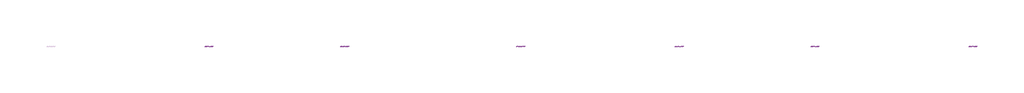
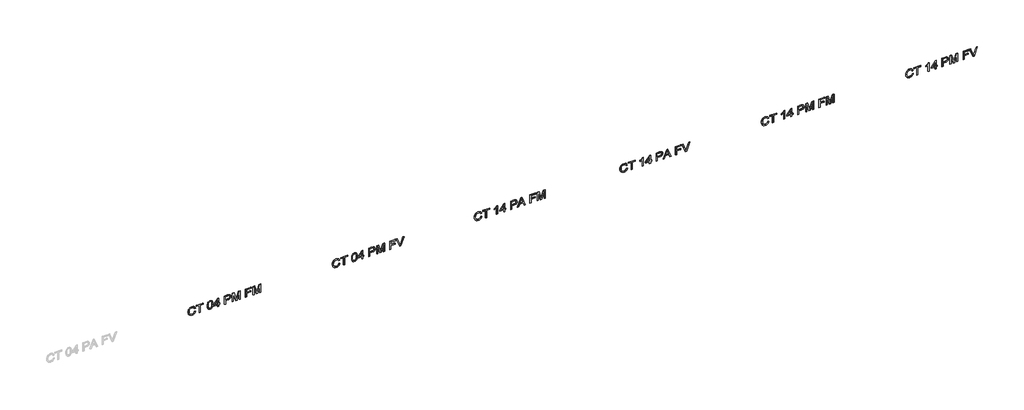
# One storey, part 2 of 2: 6 proxies.
"""IFC4 building model written with IfcOpenShell, lengths in millimetres."""

from ifc_helpers import new_model, si_unit, frame, origin, place, context, project, spatial, polyline, outline, extrude, element, save

model = new_model("IFC4")

# Units and contexts
model_context = context("Model", 3, world=origin())
ifc_project = project(units=[si_unit("LENGTHUNIT", "METRE", prefix="MILLI")], contexts=[model_context])

# Site, building, storey
site = spatial("IfcSite", under=ifc_project)
building = spatial("IfcBuilding", under=site)
storey = spatial("IfcBuildingStorey", under=building, Name="03 - Marelli - Planta Baixa - Cabine 04 Pessoas", Elevation=-24000.0)

# Proxies
placement = place(None, origin())
element("IfcBuildingElementProxy", 1, Name="300mm Arial", ObjectType="300mm Arial", at=placement, inside=storey, context=model_context, shape_type="SweptSolid", body=[
    extrude(outline(polyline([(-18192.872763, 7824.9358079), (-18225.136014, 7812.7497168), (-18248.3493679, 7792.9668625), (-18262.3656719, 7766.7644674), (-18267.0377732, 7735.3197539), (-18263.6072736, 7708.3448066), (-18253.3157748, 7683.3380279), (-18236.0897004, 7662.4791188), (-18211.855474, 7647.94778), (-18181.7627268, 7639.4221148), (-18146.96109, 7636.5802264), (-18118.5422059, 7638.9806564), (-18090.9694503, 7646.1819464), (-18066.5788741, 7659.3061366), (-18047.7065277, 7679.475267), (-18035.6216042, 7706.0547411), (-18031.5932963, 7738.4099626), (-18035.226131, 7766.4793589), (-18046.1246351, 7789.3248308), (-18064.9693903, 7807.1671075), (-18092.4409783, 7820.2269184), (-18083.4646576, 7857.8980347), (-18045.6463885, 7841.2605714), (-18030.3241034, 7829.4584572), (-18017.3930513, 7815.3340878), (-18007.1245451, 7799.1541778), (-17999.7898978, 7781.1854416), (-17993.92218, 7739.8814906), (-17998.4563256, 7702.0264333), (-18012.0587624, 7667.482314), (-18034.3983965, 7638.355257), (-18065.1441343, 7616.7513868), (-18103.0911621, 7603.3696792), (-18147.0346664, 7598.9091101), (-18188.6973024, 7602.8546445), (-18227.6008233, 7614.6912476), (-18260.6918088, 7634.0786288), (-18284.9168382, 7660.676497), (-18299.7608767, 7695.3769662), (-18304.7088895, 7739.0721502), (-18303.0741139, 7761.4945578), (-18298.1697871, 7782.1143437), (-18289.995909, 7800.9315077), (-18278.5524797, 7817.94605), (-18263.995849, 7832.8222782), (-18246.4823668, 7845.2244999), (-18226.012033, 7855.1527153), (-18202.5848477, 7862.6069242), (-18192.872763, 7824.9358079)])), frame((0.0, 8778.3159498, 0.0), z_axis=(0.0, 1.0, 0.0), x_axis=(0.0, 0.0, 1.0)), (0.0, 0.0, 1.0), 10.0),
    extrude(outline(polyline([(-18300.0, 7989.7469417), (-18300.0, 8027.418058), (-18036.3021859, 8027.418058), (-18036.3021859, 8126.3047383), (-17998.6310696, 8126.3047383), (-17998.6310696, 7890.8602614), (-18036.3021859, 7890.8602614), (-18036.3021859, 7989.7469417), (-18300.0, 7989.7469417)])), frame((0.0, 8778.3159498, 0.0), z_axis=(0.0, 1.0, 0.0), x_axis=(0.0, 0.0, 1.0)), (0.0, 0.0, 1.0), 10.0),
    extrude(outline(polyline([(-18151.7435559, 8272.280314), (-18191.1851044, 8274.1565122), (-18225.0440435, 8279.7851067), (-18253.3203733, 8289.1660976), (-18276.0140939, 8302.2994848), (-18288.568067, 8315.9846951), (-18297.5351906, 8332.02435), (-18302.9154648, 8350.4184498), (-18304.7088895, 8371.1669943), (-18300.5794141, 8401.6184265), (-18288.190988, 8426.3125054), (-18267.4056552, 8445.414778), (-18238.0854602, 8459.0907912), (-18199.7061711, 8467.3129538), (-18151.7435559, 8470.0536746), (-18111.7823742, 8468.3430234), (-18080.9262719, 8463.2110695), (-18056.6276661, 8455.375183), (-18036.3389741, 8445.5527338), (-18020.1981515, 8432.5481052), (-18008.3431542, 8415.165681), (-18001.0590907, 8394.3803482), (-17998.6310696, 8371.1669943), (-18002.7329538, 8340.8811091), (-18015.0386065, 8316.2422124), (-18035.7411658, 8297.1123487), (-18065.0337697, 8283.3535621), (-18103.5050293, 8275.048626), (-18151.7435559, 8272.280314)]), holes=[polyline([(-18151.6699795, 8309.9514303), (-18093.1767423, 8314.5131671), (-18072.097104, 8320.215338), (-18056.4621192, 8328.1983773), (-18041.3421692, 8347.1443), (-18036.3021859, 8370.7255359), (-18042.0227509, 8395.631147), (-18059.184446, 8415.3128337), (-18073.5456393, 8422.7808383), (-18093.7469594, 8428.1151272), (-18151.6699795, 8432.3825583), (-18210.8346014, 8427.9679744), (-18231.0980016, 8422.4497445), (-18245.1487945, 8414.7242226), (-18261.5655286, 8395.0057476), (-18267.0377732, 8371.1669943), (-18261.5839227, 8347.328241), (-18245.2223709, 8327.6097661), (-18231.1945706, 8319.8842442), (-18210.9265719, 8314.3660143), (-18151.6699795, 8309.9514303)])]), frame((0.0, 8778.3159498, 0.0), z_axis=(0.0, 1.0, 0.0), x_axis=(0.0, 0.0, 1.0)), (0.0, 0.0, 1.0), 10.0),
    extrude(outline(polyline([(-18300.0, 8625.4470294), (-18300.0, 8663.1181457), (-18229.3666569, 8663.1181457), (-18229.3666569, 8700.789262), (-18191.6955406, 8700.789262), (-18191.6955406, 8663.1181457), (-18003.3399591, 8663.1181457), (-18003.3399591, 8634.8648085), (-18191.6955406, 8488.8892328), (-18229.3666569, 8488.8892328), (-18229.3666569, 8625.4470294), (-18300.0, 8625.4470294)]), holes=[polyline([(-18191.6955406, 8625.4470294), (-18191.6955406, 8535.2423642), (-18075.2976773, 8625.4470294), (-18191.6955406, 8625.4470294)])]), frame((0.0, 8778.3159498, 0.0), z_axis=(0.0, 1.0, 0.0), x_axis=(0.0, 0.0, 1.0)), (0.0, 0.0, 1.0), 10.0),
    extrude(outline(polyline([(-18300.0, 8865.6003958), (-18300.0, 8903.2715122), (-18177.568872, 8903.2715122), (-18177.568872, 8979.8645435), (-18175.904206, 9009.0628777), (-18170.9102079, 9033.3821768), (-18162.5868778, 9052.822441), (-18150.9342156, 9067.3836702), (-18136.8765248, 9077.990168), (-18121.338109, 9085.5662378), (-18104.3189682, 9090.1118797), (-18085.8191024, 9091.6270937), (-18064.362385, 9089.3830135), (-18044.7266835, 9082.650773), (-18028.0800233, 9072.2305155), (-18015.5904295, 9058.9223843), (-18006.8624292, 9042.3952857), (-18001.5005491, 9022.3181258), (-17998.6310696, 8977.2893696), (-17998.6310696, 8865.6003958), (-18300.0, 8865.6003958)]), holes=[polyline([(-18139.8977557, 8903.2715122), (-18036.3021859, 8903.2715122), (-18036.3021859, 8981.1889187), (-18038.8773598, 9018.860035), (-18045.2049301, 9033.0878712), (-18055.9470844, 9044.2806809), (-18070.2209058, 9051.5371533), (-18087.1434776, 9053.9559774), (-18109.4187324, 9049.8540931), (-18126.0653927, 9037.5484404), (-18136.4396649, 9015.4755207), (-18139.8977557, 8982.0718355), (-18139.8977557, 8903.2715122)])]), frame((0.0, 8778.3159498, 0.0), z_axis=(0.0, 1.0, 0.0), x_axis=(0.0, 0.0, 1.0)), (0.0, 0.0, 1.0), 10.0),
    extrude(outline(polyline([(-18300.0, 9143.4248786), (-18300.0, 9181.0959949), (-18036.3021859, 9181.0959949), (-18300.0, 9256.8061095), (-18300.0, 9307.8681304), (-18036.3021859, 9383.5782451), (-18300.0, 9383.5782451), (-18300.0, 9421.2493614), (-17998.6310696, 9421.2493614), (-17998.6310696, 9356.4285538), (-18207.3673136, 9295.801601), (-18255.4127022, 9282.33712), (-18211.0461336, 9269.9027085), (-17998.6310696, 9208.2456862), (-17998.6310696, 9143.4248786), (-18300.0, 9143.4248786)])), frame((0.0, 8778.3159498, 0.0), z_axis=(0.0, 1.0, 0.0), x_axis=(0.0, 0.0, 1.0)), (0.0, 0.0, 1.0), 10.0),
    extrude(outline(polyline([(-18300.0, 9604.8960534), (-18300.0, 9642.5671697), (-18163.4422034, 9642.5671697), (-18163.4422034, 9783.8338558), (-18125.7710871, 9783.8338558), (-18125.7710871, 9642.5671697), (-18036.3021859, 9642.5671697), (-18036.3021859, 9807.3783035), (-17998.6310696, 9807.3783035), (-17998.6310696, 9604.8960534), (-18300.0, 9604.8960534)])), frame((0.0, 8778.3159498, 0.0), z_axis=(0.0, 1.0, 0.0), x_axis=(0.0, 0.0, 1.0)), (0.0, 0.0, 1.0), 10.0),
    extrude(outline(polyline([(-18300.0, 9859.1760884), (-18300.0, 9896.8472047), (-18036.3021859, 9896.8472047), (-18300.0, 9972.5573193), (-18300.0, 10023.6193403), (-18036.3021859, 10099.3294549), (-18300.0, 10099.3294549), (-18300.0, 10137.0005712), (-17998.6310696, 10137.0005712), (-17998.6310696, 10072.1797636), (-18207.3673136, 10011.5528108), (-18255.4127022, 9998.0883298), (-18211.0461336, 9985.6539184), (-17998.6310696, 9923.996896), (-17998.6310696, 9859.1760884), (-18300.0, 9859.1760884)])), frame((0.0, 8778.3159498, 0.0), z_axis=(0.0, 1.0, 0.0), x_axis=(0.0, 0.0, 1.0)), (0.0, 0.0, 1.0), 10.0),
])
element("IfcBuildingElementProxy", 2, Name="300mm Arial", ObjectType="300mm Arial", at=placement, inside=storey, context=model_context, shape_type="SweptSolid", body=[
    extrude(outline(polyline([(-18192.872763, 12857.8980347), (-18225.136014, 12845.7119436), (-18248.3493679, 12825.9290893), (-18262.3656719, 12799.7266942), (-18267.0377732, 12768.2819806), (-18263.6072736, 12741.3070333), (-18253.3157748, 12716.3002547), (-18236.0897004, 12695.4413456), (-18211.855474, 12680.9100068), (-18181.7627268, 12672.3843415), (-18146.96109, 12669.5424531), (-18118.5422059, 12671.9428831), (-18090.9694503, 12679.1441732), (-18066.5788741, 12692.2683634), (-18047.7065277, 12712.4374938), (-18035.6216042, 12739.0169679), (-18031.5932963, 12771.3721894), (-18035.226131, 12799.4415856), (-18046.1246351, 12822.2870575), (-18064.9693903, 12840.1293343), (-18092.4409783, 12853.1891451), (-18083.4646576, 12890.8602614), (-18045.6463885, 12874.2227982), (-18030.3241034, 12862.4206839), (-18017.3930513, 12848.2963146), (-18007.1245451, 12832.1164046), (-17999.7898978, 12814.1476684), (-17993.92218, 12772.8437174), (-17998.4563256, 12734.9886601), (-18012.0587624, 12700.4445407), (-18034.3983965, 12671.3174838), (-18065.1441343, 12649.7136136), (-18103.0911621, 12636.331906), (-18147.0346664, 12631.8713368), (-18188.6973024, 12635.8168712), (-18227.6008233, 12647.6534744), (-18260.6918088, 12667.0408556), (-18284.9168382, 12693.6387238), (-18299.7608767, 12728.339193), (-18304.7088895, 12772.034377), (-18303.0741139, 12794.4567846), (-18298.1697871, 12815.0765704), (-18289.995909, 12833.8937345), (-18278.5524797, 12850.9082767), (-18263.995849, 12865.7845049), (-18246.4823668, 12878.1867267), (-18226.012033, 12888.114942), (-18202.5848477, 12895.569151), (-18192.872763, 12857.8980347)])), frame((0.0, 8778.3159498, 0.0), z_axis=(0.0, 1.0, 0.0), x_axis=(0.0, 0.0, 1.0)), (0.0, 0.0, 1.0), 10.0),
    extrude(outline(polyline([(-18300.0, 13022.7091685), (-18300.0, 13060.3802848), (-18036.3021859, 13060.3802848), (-18036.3021859, 13159.2669651), (-17998.6310696, 13159.2669651), (-17998.6310696, 12923.8224882), (-18036.3021859, 12923.8224882), (-18036.3021859, 13022.7091685), (-18300.0, 13022.7091685)])), frame((0.0, 8778.3159498, 0.0), z_axis=(0.0, 1.0, 0.0), x_axis=(0.0, 0.0, 1.0)), (0.0, 0.0, 1.0), 10.0),
    extrude(outline(polyline([(-18151.7435559, 13305.2425408), (-18191.1851044, 13307.118739), (-18225.0440435, 13312.7473335), (-18253.3203733, 13322.1283244), (-18276.0140939, 13335.2617116), (-18288.568067, 13348.9469218), (-18297.5351906, 13364.9865768), (-18302.9154648, 13383.3806766), (-18304.7088895, 13404.1292211), (-18300.5794141, 13434.5806532), (-18288.190988, 13459.2747322), (-18267.4056552, 13478.3770048), (-18238.0854602, 13492.0530179), (-18199.7061711, 13500.2751805), (-18151.7435559, 13503.0159014), (-18111.7823742, 13501.3052501), (-18080.9262719, 13496.1732963), (-18056.6276661, 13488.3374098), (-18036.3389741, 13478.5149605), (-18020.1981515, 13465.510332), (-18008.3431542, 13448.1279077), (-18001.0590907, 13427.342575), (-17998.6310696, 13404.1292211), (-18002.7329538, 13373.8433358), (-18015.0386065, 13349.2044392), (-18035.7411658, 13330.0745755), (-18065.0337697, 13316.3157888), (-18103.5050293, 13308.0108528), (-18151.7435559, 13305.2425408)]), holes=[polyline([(-18151.6699795, 13342.9136571), (-18093.1767423, 13347.4753938), (-18072.097104, 13353.1775648), (-18056.4621192, 13361.1606041), (-18041.3421692, 13380.1065268), (-18036.3021859, 13403.6877627), (-18042.0227509, 13428.5933738), (-18059.184446, 13448.2750605), (-18073.5456393, 13455.743065), (-18093.7469594, 13461.0773539), (-18151.6699795, 13465.3447851), (-18210.8346014, 13460.9302012), (-18231.0980016, 13455.4119712), (-18245.1487945, 13447.6864493), (-18261.5655286, 13427.9679744), (-18267.0377732, 13404.1292211), (-18261.5839227, 13380.2904678), (-18245.2223709, 13360.5719929), (-18231.1945706, 13352.846471), (-18210.9265719, 13347.328241), (-18151.6699795, 13342.9136571)])]), frame((0.0, 8778.3159498, 0.0), z_axis=(0.0, 1.0, 0.0), x_axis=(0.0, 0.0, 1.0)), (0.0, 0.0, 1.0), 10.0),
    extrude(outline(polyline([(-18300.0, 13658.4092562), (-18300.0, 13696.0803725), (-18229.3666569, 13696.0803725), (-18229.3666569, 13733.7514888), (-18191.6955406, 13733.7514888), (-18191.6955406, 13696.0803725), (-18003.3399591, 13696.0803725), (-18003.3399591, 13667.8270352), (-18191.6955406, 13521.8514596), (-18229.3666569, 13521.8514596), (-18229.3666569, 13658.4092562), (-18300.0, 13658.4092562)]), holes=[polyline([(-18191.6955406, 13658.4092562), (-18191.6955406, 13568.2045909), (-18075.2976773, 13658.4092562), (-18191.6955406, 13658.4092562)])]), frame((0.0, 8778.3159498, 0.0), z_axis=(0.0, 1.0, 0.0), x_axis=(0.0, 0.0, 1.0)), (0.0, 0.0, 1.0), 10.0),
    extrude(outline(polyline([(-18300.0, 13898.5626226), (-18300.0, 13936.2337389), (-18177.568872, 13936.2337389), (-18177.568872, 14012.8267703), (-18175.904206, 14042.0251044), (-18170.9102079, 14066.3444036), (-18162.5868778, 14085.7846677), (-18150.9342156, 14100.345897), (-18136.8765248, 14110.9523947), (-18121.338109, 14118.5284646), (-18104.3189682, 14123.0741065), (-18085.8191024, 14124.5893204), (-18064.362385, 14122.3452403), (-18044.7266835, 14115.6129998), (-18028.0800233, 14105.1927423), (-18015.5904295, 14091.8846111), (-18006.8624292, 14075.3575124), (-18001.5005491, 14055.2803526), (-17998.6310696, 14010.2515963), (-17998.6310696, 13898.5626226), (-18300.0, 13898.5626226)]), holes=[polyline([(-18139.8977557, 13936.2337389), (-18036.3021859, 13936.2337389), (-18036.3021859, 14014.1511455), (-18038.8773598, 14051.8222618), (-18045.2049301, 14066.050098), (-18055.9470844, 14077.2429077), (-18070.2209058, 14084.49938), (-18087.1434776, 14086.9182041), (-18109.4187324, 14082.8163199), (-18126.0653927, 14070.5106672), (-18136.4396649, 14048.4377474), (-18139.8977557, 14015.0340623), (-18139.8977557, 13936.2337389)])]), frame((0.0, 8778.3159498, 0.0), z_axis=(0.0, 1.0, 0.0), x_axis=(0.0, 0.0, 1.0)), (0.0, 0.0, 1.0), 10.0),
    extrude(outline(polyline([(-18300.0, 14176.3871054), (-18300.0, 14214.0582217), (-18036.3021859, 14214.0582217), (-18300.0, 14289.7683363), (-18300.0, 14340.8303572), (-18036.3021859, 14416.5404718), (-18300.0, 14416.5404718), (-18300.0, 14454.2115881), (-17998.6310696, 14454.2115881), (-17998.6310696, 14389.3907806), (-18207.3673136, 14328.7638278), (-18255.4127022, 14315.2993467), (-18211.0461336, 14302.8649353), (-17998.6310696, 14241.2079129), (-17998.6310696, 14176.3871054), (-18300.0, 14176.3871054)])), frame((0.0, 8778.3159498, 0.0), z_axis=(0.0, 1.0, 0.0), x_axis=(0.0, 0.0, 1.0)), (0.0, 0.0, 1.0), 10.0),
    extrude(outline(polyline([(-18300.0, 14637.8582801), (-18300.0, 14675.5293964), (-18163.4422034, 14675.5293964), (-18163.4422034, 14816.7960826), (-18125.7710871, 14816.7960826), (-18125.7710871, 14675.5293964), (-18036.3021859, 14675.5293964), (-18036.3021859, 14840.3405303), (-17998.6310696, 14840.3405303), (-17998.6310696, 14637.8582801), (-18300.0, 14637.8582801)])), frame((0.0, 8778.3159498, 0.0), z_axis=(0.0, 1.0, 0.0), x_axis=(0.0, 0.0, 1.0)), (0.0, 0.0, 1.0), 10.0),
    extrude(outline(polyline([(-18300.0, 14981.165758), (-18300.0, 15020.0876731), (-17998.6310696, 15134.940432), (-17998.6310696, 15094.6205653), (-18215.7550231, 15014.1279848), (-18264.6833285, 14998.0883298), (-18215.7550231, 14981.8279456), (-17998.6310696, 14901.5560943), (-17998.6310696, 14861.2362276), (-18300.0, 14981.165758)])), frame((0.0, 8778.3159498, 0.0), z_axis=(0.0, 1.0, 0.0), x_axis=(0.0, 0.0, 1.0)), (0.0, 0.0, 1.0), 10.0),
])
element("IfcBuildingElementProxy", 3, Name="300mm Arial", ObjectType="300mm Arial", at=placement, inside=storey, context=model_context, shape_type="SweptSolid", body=[
    extrude(outline(polyline([(-18192.872763, 17810.8091393), (-18225.136014, 17798.6230482), (-18248.3493679, 17778.8401939), (-18262.3656719, 17752.6377988), (-18267.0377732, 17721.1930852), (-18263.6072736, 17694.218138), (-18253.3157748, 17669.2113593), (-18236.0897004, 17648.3524502), (-18211.855474, 17633.8211114), (-18181.7627268, 17625.2954462), (-18146.96109, 17622.4535577), (-18118.5422059, 17624.8539878), (-18090.9694503, 17632.0552778), (-18066.5788741, 17645.179468), (-18047.7065277, 17665.3485984), (-18035.6216042, 17691.9280725), (-18031.5932963, 17724.283294), (-18035.226131, 17752.3526902), (-18046.1246351, 17775.1981621), (-18064.9693903, 17793.0404389), (-18092.4409783, 17806.1002497), (-18083.4646576, 17843.771366), (-18045.6463885, 17827.1339028), (-18030.3241034, 17815.3317886), (-18017.3930513, 17801.2074192), (-18007.1245451, 17785.0275092), (-17999.7898978, 17767.058773), (-17993.92218, 17725.754822), (-17998.4563256, 17687.8997647), (-18012.0587624, 17653.3556453), (-18034.3983965, 17624.2285884), (-18065.1441343, 17602.6247182), (-18103.0911621, 17589.2430106), (-18147.0346664, 17584.7824414), (-18188.6973024, 17588.7279758), (-18227.6008233, 17600.564579), (-18260.6918088, 17619.9519602), (-18284.9168382, 17646.5498284), (-18299.7608767, 17681.2502976), (-18304.7088895, 17724.9454816), (-18303.0741139, 17747.3678892), (-18298.1697871, 17767.987675), (-18289.995909, 17786.8048391), (-18278.5524797, 17803.8193814), (-18263.995849, 17818.6956095), (-18246.4823668, 17831.0978313), (-18226.012033, 17841.0260467), (-18202.5848477, 17848.4802556), (-18192.872763, 17810.8091393)])), frame((0.0, 8778.3159498, 0.0), z_axis=(0.0, 1.0, 0.0), x_axis=(0.0, 0.0, 1.0)), (0.0, 0.0, 1.0), 10.0),
    extrude(outline(polyline([(-18300.0, 17975.6202731), (-18300.0, 18013.2913894), (-18036.3021859, 18013.2913894), (-18036.3021859, 18112.1780697), (-17998.6310696, 18112.1780697), (-17998.6310696, 17876.7335928), (-18036.3021859, 17876.7335928), (-18036.3021859, 17975.6202731), (-18300.0, 17975.6202731)])), frame((0.0, 8778.3159498, 0.0), z_axis=(0.0, 1.0, 0.0), x_axis=(0.0, 0.0, 1.0)), (0.0, 0.0, 1.0), 10.0),
    extrude(outline(polyline([(-18300.0, 18399.4203316), (-17998.6310696, 18399.4203316), (-17998.6310696, 18375.1401199), (-18018.3679386, 18361.8319887), (-18038.730207, 18341.6260701), (-18057.8784649, 18315.9938921), (-18073.9733022, 18286.4069826), (-18109.5842793, 18286.4069826), (-18090.5647801, 18326.0646617), (-18065.1441343, 18361.7492153), (-18300.0, 18361.7492153), (-18300.0, 18399.4203316)])), frame((0.0, 8778.3159498, 0.0), z_axis=(0.0, 1.0, 0.0), x_axis=(0.0, 0.0, 1.0)), (0.0, 0.0, 1.0), 10.0),
    extrude(outline(polyline([(-18300.0, 18611.3203608), (-18300.0, 18648.9914771), (-18229.3666569, 18648.9914771), (-18229.3666569, 18686.6625934), (-18191.6955406, 18686.6625934), (-18191.6955406, 18648.9914771), (-18003.3399591, 18648.9914771), (-18003.3399591, 18620.7381399), (-18191.6955406, 18474.7625642), (-18229.3666569, 18474.7625642), (-18229.3666569, 18611.3203608), (-18300.0, 18611.3203608)]), holes=[polyline([(-18191.6955406, 18611.3203608), (-18191.6955406, 18521.1156956), (-18075.2976773, 18611.3203608), (-18191.6955406, 18611.3203608)])]), frame((0.0, 8778.3159498, 0.0), z_axis=(0.0, 1.0, 0.0), x_axis=(0.0, 0.0, 1.0)), (0.0, 0.0, 1.0), 10.0),
    extrude(outline(polyline([(-18300.0, 18851.4737272), (-18300.0, 18889.1448435), (-18177.568872, 18889.1448435), (-18177.568872, 18965.7378749), (-18175.904206, 18994.936209), (-18170.9102079, 19019.2555082), (-18162.5868778, 19038.6957724), (-18150.9342156, 19053.2570016), (-18136.8765248, 19063.8634994), (-18121.338109, 19071.4395692), (-18104.3189682, 19075.9852111), (-18085.8191024, 19077.5004251), (-18064.362385, 19075.2563449), (-18044.7266835, 19068.5241044), (-18028.0800233, 19058.1038469), (-18015.5904295, 19044.7957157), (-18006.8624292, 19028.2686171), (-18001.5005491, 19008.1914572), (-17998.6310696, 18963.162701), (-17998.6310696, 18851.4737272), (-18300.0, 18851.4737272)]), holes=[polyline([(-18139.8977557, 18889.1448435), (-18036.3021859, 18889.1448435), (-18036.3021859, 18967.0622501), (-18038.8773598, 19004.7333664), (-18045.2049301, 19018.9612026), (-18055.9470844, 19030.1540123), (-18070.2209058, 19037.4104846), (-18087.1434776, 19039.8293088), (-18109.4187324, 19035.7274245), (-18126.0653927, 19023.4217718), (-18136.4396649, 19001.3488521), (-18139.8977557, 18967.9451669), (-18139.8977557, 18889.1448435)])]), frame((0.0, 8778.3159498, 0.0), z_axis=(0.0, 1.0, 0.0), x_axis=(0.0, 0.0, 1.0)), (0.0, 0.0, 1.0), 10.0),
    extrude(outline(polyline([(-18300.0, 19094.2022676), (-18300.0, 19134.0070995), (-18205.8222092, 19168.4408543), (-18205.8222092, 19292.5642394), (-18300.0, 19327.0715706), (-18300.0, 19366.8764025), (-17998.6310696, 19246.5789901), (-17998.6310696, 19214.4996801), (-18300.0, 19094.2022676)]), holes=[polyline([(-18168.1510929, 19182.2732173), (-18087.584936, 19211.7773533), (-18036.3021859, 19230.5393351), (-18094.0596591, 19251.6557616), (-18168.1510929, 19278.8054528), (-18168.1510929, 19182.2732173)])]), frame((0.0, 8778.3159498, 0.0), z_axis=(0.0, 1.0, 0.0), x_axis=(0.0, 0.0, 1.0)), (0.0, 0.0, 1.0), 10.0),
    extrude(outline(polyline([(-18300.0, 19524.8449312), (-18300.0, 19562.5160475), (-18163.4422034, 19562.5160475), (-18163.4422034, 19703.7827337), (-18125.7710871, 19703.7827337), (-18125.7710871, 19562.5160475), (-18036.3021859, 19562.5160475), (-18036.3021859, 19727.3271813), (-17998.6310696, 19727.3271813), (-17998.6310696, 19524.8449312), (-18300.0, 19524.8449312)])), frame((0.0, 8778.3159498, 0.0), z_axis=(0.0, 1.0, 0.0), x_axis=(0.0, 0.0, 1.0)), (0.0, 0.0, 1.0), 10.0),
    extrude(outline(polyline([(-18300.0, 19779.1249663), (-18300.0, 19816.7960826), (-18036.3021859, 19816.7960826), (-18300.0, 19892.5061972), (-18300.0, 19943.5682181), (-18036.3021859, 20019.2783327), (-18300.0, 20019.2783327), (-18300.0, 20056.949449), (-17998.6310696, 20056.949449), (-17998.6310696, 19992.1286415), (-18207.3673136, 19931.5016887), (-18255.4127022, 19918.0372076), (-18211.0461336, 19905.6027962), (-17998.6310696, 19843.9457738), (-17998.6310696, 19779.1249663), (-18300.0, 19779.1249663)])), frame((0.0, 8778.3159498, 0.0), z_axis=(0.0, 1.0, 0.0), x_axis=(0.0, 0.0, 1.0)), (0.0, 0.0, 1.0), 10.0),
])
element("IfcBuildingElementProxy", 4, Name="300mm Arial", ObjectType="300mm Arial", at=placement, inside=storey, context=model_context, shape_type="SweptSolid", body=[
    extrude(outline(polyline([(-18192.872763, 22890.8602614), (-18225.136014, 22878.6741703), (-18248.3493679, 22858.891316), (-18262.3656719, 22832.6889209), (-18267.0377732, 22801.2442074), (-18263.6072736, 22774.2692601), (-18253.3157748, 22749.2624815), (-18236.0897004, 22728.4035724), (-18211.855474, 22713.8722335), (-18181.7627268, 22705.3465683), (-18146.96109, 22702.5046799), (-18118.5422059, 22704.9051099), (-18090.9694503, 22712.1064), (-18066.5788741, 22725.2305901), (-18047.7065277, 22745.3997205), (-18035.6216042, 22771.9791947), (-18031.5932963, 22804.3344162), (-18035.226131, 22832.4038124), (-18046.1246351, 22855.2492843), (-18064.9693903, 22873.0915611), (-18092.4409783, 22886.1513719), (-18083.4646576, 22923.8224882), (-18045.6463885, 22907.185025), (-18030.3241034, 22895.3829107), (-18017.3930513, 22881.2585414), (-18007.1245451, 22865.0786314), (-17999.7898978, 22847.1098951), (-17993.92218, 22805.8059441), (-17998.4563256, 22767.9508868), (-18012.0587624, 22733.4067675), (-18034.3983965, 22704.2797105), (-18065.1441343, 22682.6758404), (-18103.0911621, 22669.2941328), (-18147.0346664, 22664.8335636), (-18188.6973024, 22668.779098), (-18227.6008233, 22680.6157012), (-18260.6918088, 22700.0030823), (-18284.9168382, 22726.6009506), (-18299.7608767, 22761.3014198), (-18304.7088895, 22804.9966038), (-18303.0741139, 22827.4190114), (-18298.1697871, 22848.0387972), (-18289.995909, 22866.8559612), (-18278.5524797, 22883.8705035), (-18263.995849, 22898.7467317), (-18246.4823668, 22911.1489535), (-18226.012033, 22921.0771688), (-18202.5848477, 22928.5313777), (-18192.872763, 22890.8602614)])), frame((0.0, 8778.3159498, 0.0), z_axis=(0.0, 1.0, 0.0), x_axis=(0.0, 0.0, 1.0)), (0.0, 0.0, 1.0), 10.0),
    extrude(outline(polyline([(-18300.0, 23055.6713953), (-18300.0, 23093.3425116), (-18036.3021859, 23093.3425116), (-18036.3021859, 23192.2291919), (-17998.6310696, 23192.2291919), (-17998.6310696, 22956.784715), (-18036.3021859, 22956.784715), (-18036.3021859, 23055.6713953), (-18300.0, 23055.6713953)])), frame((0.0, 8778.3159498, 0.0), z_axis=(0.0, 1.0, 0.0), x_axis=(0.0, 0.0, 1.0)), (0.0, 0.0, 1.0), 10.0),
    extrude(outline(polyline([(-18300.0, 23479.4714537), (-17998.6310696, 23479.4714537), (-17998.6310696, 23455.191242), (-18018.3679386, 23441.8831109), (-18038.730207, 23421.6771923), (-18057.8784649, 23396.0450143), (-18073.9733022, 23366.4581048), (-18109.5842793, 23366.4581048), (-18090.5647801, 23406.1157839), (-18065.1441343, 23441.8003374), (-18300.0, 23441.8003374), (-18300.0, 23479.4714537)])), frame((0.0, 8778.3159498, 0.0), z_axis=(0.0, 1.0, 0.0), x_axis=(0.0, 0.0, 1.0)), (0.0, 0.0, 1.0), 10.0),
    extrude(outline(polyline([(-18300.0, 23691.3714829), (-18300.0, 23729.0425992), (-18229.3666569, 23729.0425992), (-18229.3666569, 23766.7137155), (-18191.6955406, 23766.7137155), (-18191.6955406, 23729.0425992), (-18003.3399591, 23729.0425992), (-18003.3399591, 23700.789262), (-18191.6955406, 23554.8136863), (-18229.3666569, 23554.8136863), (-18229.3666569, 23691.3714829), (-18300.0, 23691.3714829)]), holes=[polyline([(-18191.6955406, 23691.3714829), (-18191.6955406, 23601.1668177), (-18075.2976773, 23691.3714829), (-18191.6955406, 23691.3714829)])]), frame((0.0, 8778.3159498, 0.0), z_axis=(0.0, 1.0, 0.0), x_axis=(0.0, 0.0, 1.0)), (0.0, 0.0, 1.0), 10.0),
    extrude(outline(polyline([(-18300.0, 23931.5248494), (-18300.0, 23969.1959657), (-18177.568872, 23969.1959657), (-18177.568872, 24045.7889971), (-18175.904206, 24074.9873312), (-18170.9102079, 24099.3066303), (-18162.5868778, 24118.7468945), (-18150.9342156, 24133.3081237), (-18136.8765248, 24143.9146215), (-18121.338109, 24151.4906913), (-18104.3189682, 24156.0363333), (-18085.8191024, 24157.5515472), (-18064.362385, 24155.307467), (-18044.7266835, 24148.5752265), (-18028.0800233, 24138.154969), (-18015.5904295, 24124.8468378), (-18006.8624292, 24108.3197392), (-18001.5005491, 24088.2425793), (-17998.6310696, 24043.2138231), (-17998.6310696, 23931.5248494), (-18300.0, 23931.5248494)]), holes=[polyline([(-18139.8977557, 23969.1959657), (-18036.3021859, 23969.1959657), (-18036.3021859, 24047.1133723), (-18038.8773598, 24084.7844886), (-18045.2049301, 24099.0123247), (-18055.9470844, 24110.2051344), (-18070.2209058, 24117.4616068), (-18087.1434776, 24119.8804309), (-18109.4187324, 24115.7785467), (-18126.0653927, 24103.4728939), (-18136.4396649, 24081.3999742), (-18139.8977557, 24047.9962891), (-18139.8977557, 23969.1959657)])]), frame((0.0, 8778.3159498, 0.0), z_axis=(0.0, 1.0, 0.0), x_axis=(0.0, 0.0, 1.0)), (0.0, 0.0, 1.0), 10.0),
    extrude(outline(polyline([(-18300.0, 24174.2533898), (-18300.0, 24214.0582217), (-18205.8222092, 24248.4919764), (-18205.8222092, 24372.6153616), (-18300.0, 24407.1226927), (-18300.0, 24446.9275246), (-17998.6310696, 24326.6301122), (-17998.6310696, 24294.5508022), (-18300.0, 24174.2533898)]), holes=[polyline([(-18168.1510929, 24262.3243394), (-18087.584936, 24291.8284755), (-18036.3021859, 24310.5904572), (-18094.0596591, 24331.7068837), (-18168.1510929, 24358.856575), (-18168.1510929, 24262.3243394)])]), frame((0.0, 8778.3159498, 0.0), z_axis=(0.0, 1.0, 0.0), x_axis=(0.0, 0.0, 1.0)), (0.0, 0.0, 1.0), 10.0),
    extrude(outline(polyline([(-18300.0, 24604.8960534), (-18300.0, 24642.5671697), (-18163.4422034, 24642.5671697), (-18163.4422034, 24783.8338558), (-18125.7710871, 24783.8338558), (-18125.7710871, 24642.5671697), (-18036.3021859, 24642.5671697), (-18036.3021859, 24807.3783035), (-17998.6310696, 24807.3783035), (-17998.6310696, 24604.8960534), (-18300.0, 24604.8960534)])), frame((0.0, 8778.3159498, 0.0), z_axis=(0.0, 1.0, 0.0), x_axis=(0.0, 0.0, 1.0)), (0.0, 0.0, 1.0), 10.0),
    extrude(outline(polyline([(-18300.0, 24948.2035313), (-18300.0, 24987.1254463), (-17998.6310696, 25101.9782052), (-17998.6310696, 25061.6583386), (-18215.7550231, 24981.165758), (-18264.6833285, 24965.126103), (-18215.7550231, 24948.8657188), (-17998.6310696, 24868.5938675), (-17998.6310696, 24828.2740008), (-18300.0, 24948.2035313)])), frame((0.0, 8778.3159498, 0.0), z_axis=(0.0, 1.0, 0.0), x_axis=(0.0, 0.0, 1.0)), (0.0, 0.0, 1.0), 10.0),
])
element("IfcBuildingElementProxy", 5, Name="300mm Arial", ObjectType="300mm Arial", at=placement, inside=storey, context=model_context, shape_type="SweptSolid", body=[
    extrude(outline(polyline([(-18192.872763, 27824.9358079), (-18225.136014, 27812.7497168), (-18248.3493679, 27792.9668625), (-18262.3656719, 27766.7644674), (-18267.0377732, 27735.3197539), (-18263.6072736, 27708.3448066), (-18253.3157748, 27683.3380279), (-18236.0897004, 27662.4791188), (-18211.855474, 27647.94778), (-18181.7627268, 27639.4221148), (-18146.96109, 27636.5802264), (-18118.5422059, 27638.9806564), (-18090.9694503, 27646.1819464), (-18066.5788741, 27659.3061366), (-18047.7065277, 27679.475267), (-18035.6216042, 27706.0547411), (-18031.5932963, 27738.4099626), (-18035.226131, 27766.4793589), (-18046.1246351, 27789.3248308), (-18064.9693903, 27807.1671075), (-18092.4409783, 27820.2269184), (-18083.4646576, 27857.8980347), (-18045.6463885, 27841.2605714), (-18030.3241034, 27829.4584572), (-18017.3930513, 27815.3340878), (-18007.1245451, 27799.1541778), (-17999.7898978, 27781.1854416), (-17993.92218, 27739.8814906), (-17998.4563256, 27702.0264333), (-18012.0587624, 27667.482314), (-18034.3983965, 27638.355257), (-18065.1441343, 27616.7513868), (-18103.0911621, 27603.3696792), (-18147.0346664, 27598.9091101), (-18188.6973024, 27602.8546445), (-18227.6008233, 27614.6912476), (-18260.6918088, 27634.0786288), (-18284.9168382, 27660.676497), (-18299.7608767, 27695.3769662), (-18304.7088895, 27739.0721502), (-18303.0741139, 27761.4945578), (-18298.1697871, 27782.1143437), (-18289.995909, 27800.9315077), (-18278.5524797, 27817.94605), (-18263.995849, 27832.8222782), (-18246.4823668, 27845.2244999), (-18226.012033, 27855.1527153), (-18202.5848477, 27862.6069242), (-18192.872763, 27824.9358079)])), frame((0.0, 8778.3159498, 0.0), z_axis=(0.0, 1.0, 0.0), x_axis=(0.0, 0.0, 1.0)), (0.0, 0.0, 1.0), 10.0),
    extrude(outline(polyline([(-18300.0, 27989.7469417), (-18300.0, 28027.418058), (-18036.3021859, 28027.418058), (-18036.3021859, 28126.3047383), (-17998.6310696, 28126.3047383), (-17998.6310696, 27890.8602614), (-18036.3021859, 27890.8602614), (-18036.3021859, 27989.7469417), (-18300.0, 27989.7469417)])), frame((0.0, 8778.3159498, 0.0), z_axis=(0.0, 1.0, 0.0), x_axis=(0.0, 0.0, 1.0)), (0.0, 0.0, 1.0), 10.0),
    extrude(outline(polyline([(-18300.0, 28413.5470002), (-17998.6310696, 28413.5470002), (-17998.6310696, 28389.2667885), (-18018.3679386, 28375.9586573), (-18038.730207, 28355.7527387), (-18057.8784649, 28330.1205607), (-18073.9733022, 28300.5336513), (-18109.5842793, 28300.5336513), (-18090.5647801, 28340.1913303), (-18065.1441343, 28375.8758839), (-18300.0, 28375.8758839), (-18300.0, 28413.5470002)])), frame((0.0, 8778.3159498, 0.0), z_axis=(0.0, 1.0, 0.0), x_axis=(0.0, 0.0, 1.0)), (0.0, 0.0, 1.0), 10.0),
    extrude(outline(polyline([(-18300.0, 28625.4470294), (-18300.0, 28663.1181457), (-18229.3666569, 28663.1181457), (-18229.3666569, 28700.789262), (-18191.6955406, 28700.789262), (-18191.6955406, 28663.1181457), (-18003.3399591, 28663.1181457), (-18003.3399591, 28634.8648085), (-18191.6955406, 28488.8892328), (-18229.3666569, 28488.8892328), (-18229.3666569, 28625.4470294), (-18300.0, 28625.4470294)]), holes=[polyline([(-18191.6955406, 28625.4470294), (-18191.6955406, 28535.2423642), (-18075.2976773, 28625.4470294), (-18191.6955406, 28625.4470294)])]), frame((0.0, 8778.3159498, 0.0), z_axis=(0.0, 1.0, 0.0), x_axis=(0.0, 0.0, 1.0)), (0.0, 0.0, 1.0), 10.0),
    extrude(outline(polyline([(-18300.0, 28865.6003958), (-18300.0, 28903.2715122), (-18177.568872, 28903.2715122), (-18177.568872, 28979.8645435), (-18175.904206, 29009.0628777), (-18170.9102079, 29033.3821768), (-18162.5868778, 29052.822441), (-18150.9342156, 29067.3836702), (-18136.8765248, 29077.990168), (-18121.338109, 29085.5662378), (-18104.3189682, 29090.1118797), (-18085.8191024, 29091.6270937), (-18064.362385, 29089.3830135), (-18044.7266835, 29082.650773), (-18028.0800233, 29072.2305155), (-18015.5904295, 29058.9223843), (-18006.8624292, 29042.3952857), (-18001.5005491, 29022.3181258), (-17998.6310696, 28977.2893696), (-17998.6310696, 28865.6003958), (-18300.0, 28865.6003958)]), holes=[polyline([(-18139.8977557, 28903.2715122), (-18036.3021859, 28903.2715122), (-18036.3021859, 28981.1889187), (-18038.8773598, 29018.860035), (-18045.2049301, 29033.0878712), (-18055.9470844, 29044.2806809), (-18070.2209058, 29051.5371533), (-18087.1434776, 29053.9559774), (-18109.4187324, 29049.8540931), (-18126.0653927, 29037.5484404), (-18136.4396649, 29015.4755207), (-18139.8977557, 28982.0718355), (-18139.8977557, 28903.2715122)])]), frame((0.0, 8778.3159498, 0.0), z_axis=(0.0, 1.0, 0.0), x_axis=(0.0, 0.0, 1.0)), (0.0, 0.0, 1.0), 10.0),
    extrude(outline(polyline([(-18300.0, 29143.4248786), (-18300.0, 29181.0959949), (-18036.3021859, 29181.0959949), (-18300.0, 29256.8061095), (-18300.0, 29307.8681304), (-18036.3021859, 29383.5782451), (-18300.0, 29383.5782451), (-18300.0, 29421.2493614), (-17998.6310696, 29421.2493614), (-17998.6310696, 29356.4285538), (-18207.3673136, 29295.801601), (-18255.4127022, 29282.33712), (-18211.0461336, 29269.9027085), (-17998.6310696, 29208.2456862), (-17998.6310696, 29143.4248786), (-18300.0, 29143.4248786)])), frame((0.0, 8778.3159498, 0.0), z_axis=(0.0, 1.0, 0.0), x_axis=(0.0, 0.0, 1.0)), (0.0, 0.0, 1.0), 10.0),
    extrude(outline(polyline([(-18300.0, 29604.8960534), (-18300.0, 29642.5671697), (-18163.4422034, 29642.5671697), (-18163.4422034, 29783.8338558), (-18125.7710871, 29783.8338558), (-18125.7710871, 29642.5671697), (-18036.3021859, 29642.5671697), (-18036.3021859, 29807.3783035), (-17998.6310696, 29807.3783035), (-17998.6310696, 29604.8960534), (-18300.0, 29604.8960534)])), frame((0.0, 8778.3159498, 0.0), z_axis=(0.0, 1.0, 0.0), x_axis=(0.0, 0.0, 1.0)), (0.0, 0.0, 1.0), 10.0),
    extrude(outline(polyline([(-18300.0, 29859.1760884), (-18300.0, 29896.8472047), (-18036.3021859, 29896.8472047), (-18300.0, 29972.5573193), (-18300.0, 30023.6193403), (-18036.3021859, 30099.3294549), (-18300.0, 30099.3294549), (-18300.0, 30137.0005712), (-17998.6310696, 30137.0005712), (-17998.6310696, 30072.1797636), (-18207.3673136, 30011.5528108), (-18255.4127022, 29998.0883298), (-18211.0461336, 29985.6539184), (-17998.6310696, 29923.996896), (-17998.6310696, 29859.1760884), (-18300.0, 29859.1760884)])), frame((0.0, 8778.3159498, 0.0), z_axis=(0.0, 1.0, 0.0), x_axis=(0.0, 0.0, 1.0)), (0.0, 0.0, 1.0), 10.0),
])
element("IfcBuildingElementProxy", 6, Name="300mm Arial", ObjectType="300mm Arial", at=placement, inside=storey, context=model_context, shape_type="SweptSolid", body=[
    extrude(outline(polyline([(-18192.872763, 32857.8980347), (-18225.136014, 32845.7119436), (-18248.3493679, 32825.9290893), (-18262.3656719, 32799.7266942), (-18267.0377732, 32768.2819806), (-18263.6072736, 32741.3070333), (-18253.3157748, 32716.3002547), (-18236.0897004, 32695.4413456), (-18211.855474, 32680.9100068), (-18181.7627268, 32672.3843415), (-18146.96109, 32669.5424531), (-18118.5422059, 32671.9428831), (-18090.9694503, 32679.1441732), (-18066.5788741, 32692.2683634), (-18047.7065277, 32712.4374938), (-18035.6216042, 32739.0169679), (-18031.5932963, 32771.3721894), (-18035.226131, 32799.4415856), (-18046.1246351, 32822.2870575), (-18064.9693903, 32840.1293343), (-18092.4409783, 32853.1891451), (-18083.4646576, 32890.8602614), (-18045.6463885, 32874.2227982), (-18030.3241034, 32862.4206839), (-18017.3930513, 32848.2963146), (-18007.1245451, 32832.1164046), (-17999.7898978, 32814.1476684), (-17993.92218, 32772.8437174), (-17998.4563256, 32734.9886601), (-18012.0587624, 32700.4445407), (-18034.3983965, 32671.3174838), (-18065.1441343, 32649.7136136), (-18103.0911621, 32636.331906), (-18147.0346664, 32631.8713368), (-18188.6973024, 32635.8168712), (-18227.6008233, 32647.6534744), (-18260.6918088, 32667.0408556), (-18284.9168382, 32693.6387238), (-18299.7608767, 32728.339193), (-18304.7088895, 32772.034377), (-18303.0741139, 32794.4567846), (-18298.1697871, 32815.0765704), (-18289.995909, 32833.8937345), (-18278.5524797, 32850.9082767), (-18263.995849, 32865.7845049), (-18246.4823668, 32878.1867267), (-18226.012033, 32888.114942), (-18202.5848477, 32895.569151), (-18192.872763, 32857.8980347)])), frame((0.0, 8778.3159498, 0.0), z_axis=(0.0, 1.0, 0.0), x_axis=(0.0, 0.0, 1.0)), (0.0, 0.0, 1.0), 10.0),
    extrude(outline(polyline([(-18300.0, 33022.7091685), (-18300.0, 33060.3802848), (-18036.3021859, 33060.3802848), (-18036.3021859, 33159.2669651), (-17998.6310696, 33159.2669651), (-17998.6310696, 32923.8224882), (-18036.3021859, 32923.8224882), (-18036.3021859, 33022.7091685), (-18300.0, 33022.7091685)])), frame((0.0, 8778.3159498, 0.0), z_axis=(0.0, 1.0, 0.0), x_axis=(0.0, 0.0, 1.0)), (0.0, 0.0, 1.0), 10.0),
    extrude(outline(polyline([(-18300.0, 33446.5092269), (-17998.6310696, 33446.5092269), (-17998.6310696, 33422.2290153), (-18018.3679386, 33408.9208841), (-18038.730207, 33388.7149655), (-18057.8784649, 33363.0827875), (-18073.9733022, 33333.495878), (-18109.5842793, 33333.495878), (-18090.5647801, 33373.1535571), (-18065.1441343, 33408.8381106), (-18300.0, 33408.8381106), (-18300.0, 33446.5092269)])), frame((0.0, 8778.3159498, 0.0), z_axis=(0.0, 1.0, 0.0), x_axis=(0.0, 0.0, 1.0)), (0.0, 0.0, 1.0), 10.0),
    extrude(outline(polyline([(-18300.0, 33658.4092562), (-18300.0, 33696.0803725), (-18229.3666569, 33696.0803725), (-18229.3666569, 33733.7514888), (-18191.6955406, 33733.7514888), (-18191.6955406, 33696.0803725), (-18003.3399591, 33696.0803725), (-18003.3399591, 33667.8270352), (-18191.6955406, 33521.8514596), (-18229.3666569, 33521.8514596), (-18229.3666569, 33658.4092562), (-18300.0, 33658.4092562)]), holes=[polyline([(-18191.6955406, 33658.4092562), (-18191.6955406, 33568.2045909), (-18075.2976773, 33658.4092562), (-18191.6955406, 33658.4092562)])]), frame((0.0, 8778.3159498, 0.0), z_axis=(0.0, 1.0, 0.0), x_axis=(0.0, 0.0, 1.0)), (0.0, 0.0, 1.0), 10.0),
    extrude(outline(polyline([(-18300.0, 33898.5626226), (-18300.0, 33936.2337389), (-18177.568872, 33936.2337389), (-18177.568872, 34012.8267703), (-18175.904206, 34042.0251044), (-18170.9102079, 34066.3444036), (-18162.5868778, 34085.7846677), (-18150.9342156, 34100.345897), (-18136.8765248, 34110.9523947), (-18121.338109, 34118.5284646), (-18104.3189682, 34123.0741065), (-18085.8191024, 34124.5893204), (-18064.362385, 34122.3452403), (-18044.7266835, 34115.6129998), (-18028.0800233, 34105.1927423), (-18015.5904295, 34091.8846111), (-18006.8624292, 34075.3575124), (-18001.5005491, 34055.2803526), (-17998.6310696, 34010.2515963), (-17998.6310696, 33898.5626226), (-18300.0, 33898.5626226)]), holes=[polyline([(-18139.8977557, 33936.2337389), (-18036.3021859, 33936.2337389), (-18036.3021859, 34014.1511455), (-18038.8773598, 34051.8222618), (-18045.2049301, 34066.050098), (-18055.9470844, 34077.2429077), (-18070.2209058, 34084.49938), (-18087.1434776, 34086.9182041), (-18109.4187324, 34082.8163199), (-18126.0653927, 34070.5106672), (-18136.4396649, 34048.4377474), (-18139.8977557, 34015.0340623), (-18139.8977557, 33936.2337389)])]), frame((0.0, 8778.3159498, 0.0), z_axis=(0.0, 1.0, 0.0), x_axis=(0.0, 0.0, 1.0)), (0.0, 0.0, 1.0), 10.0),
    extrude(outline(polyline([(-18300.0, 34176.3871054), (-18300.0, 34214.0582217), (-18036.3021859, 34214.0582217), (-18300.0, 34289.7683363), (-18300.0, 34340.8303572), (-18036.3021859, 34416.5404718), (-18300.0, 34416.5404718), (-18300.0, 34454.2115881), (-17998.6310696, 34454.2115881), (-17998.6310696, 34389.3907806), (-18207.3673136, 34328.7638278), (-18255.4127022, 34315.2993467), (-18211.0461336, 34302.8649353), (-17998.6310696, 34241.2079129), (-17998.6310696, 34176.3871054), (-18300.0, 34176.3871054)])), frame((0.0, 8778.3159498, 0.0), z_axis=(0.0, 1.0, 0.0), x_axis=(0.0, 0.0, 1.0)), (0.0, 0.0, 1.0), 10.0),
    extrude(outline(polyline([(-18300.0, 34637.8582801), (-18300.0, 34675.5293964), (-18163.4422034, 34675.5293964), (-18163.4422034, 34816.7960826), (-18125.7710871, 34816.7960826), (-18125.7710871, 34675.5293964), (-18036.3021859, 34675.5293964), (-18036.3021859, 34840.3405303), (-17998.6310696, 34840.3405303), (-17998.6310696, 34637.8582801), (-18300.0, 34637.8582801)])), frame((0.0, 8778.3159498, 0.0), z_axis=(0.0, 1.0, 0.0), x_axis=(0.0, 0.0, 1.0)), (0.0, 0.0, 1.0), 10.0),
    extrude(outline(polyline([(-18300.0, 34981.165758), (-18300.0, 35020.0876731), (-17998.6310696, 35134.940432), (-17998.6310696, 35094.6205653), (-18215.7550231, 35014.1279848), (-18264.6833285, 34998.0883298), (-18215.7550231, 34981.8279456), (-17998.6310696, 34901.5560943), (-17998.6310696, 34861.2362276), (-18300.0, 34981.165758)])), frame((0.0, 8778.3159498, 0.0), z_axis=(0.0, 1.0, 0.0), x_axis=(0.0, 0.0, 1.0)), (0.0, 0.0, 1.0), 10.0),
])

save(model, "model.ifc")
